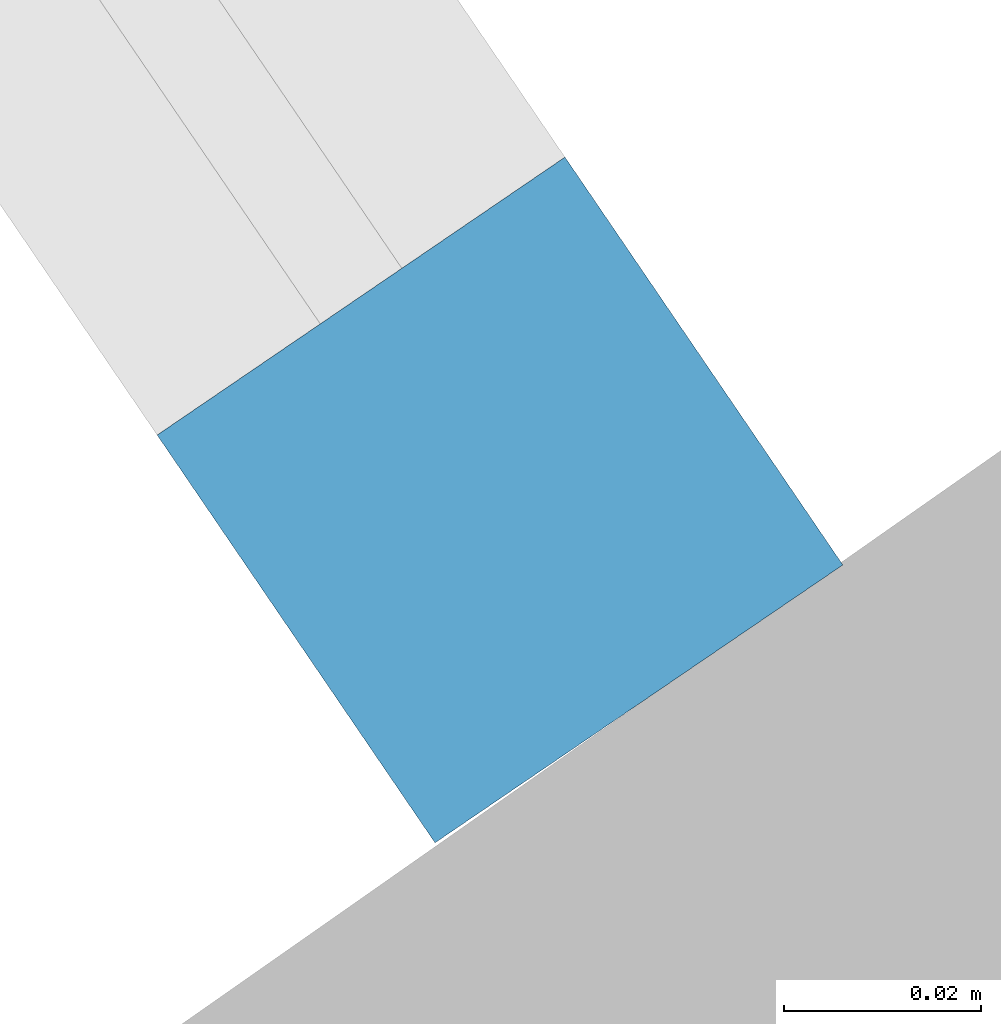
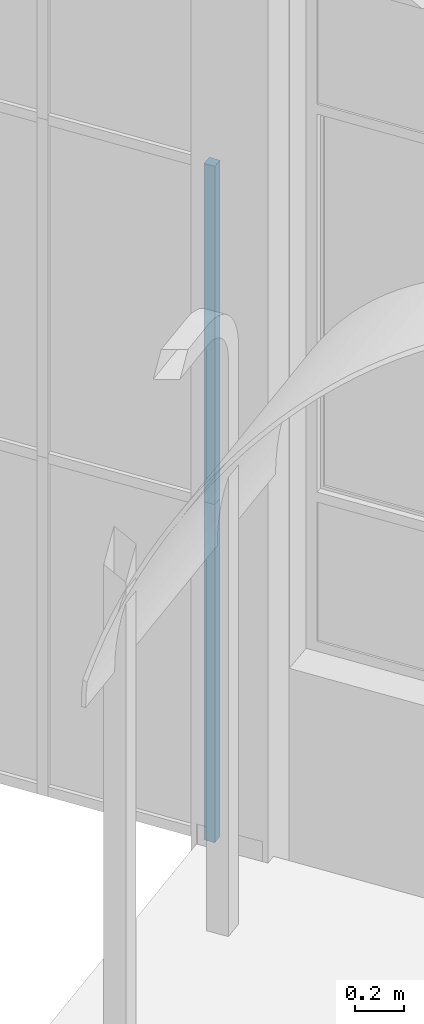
# One storey, part 21 of 157: 2 members, 1 element without a shape of its own.
"""IFC2X3 building model written with IfcOpenShell, lengths in millimetres."""

from ifc_helpers import new_model, entity, si_unit, converted_unit, derived_unit, direction, frame, origin, origin_2d_with_axis, place, context, subcontext, project, spatial, rectangle, extrude, source, transform, mapped, material, type_object, type_shapes, element, aggregate, save


model = new_model("IFC2X3")

# Units and contexts
model_context = context("Model", 3, precision=0.01, world=origin(), true_north=direction((6.123031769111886e-17, 1.0)))
body_context = subcontext(model_context, "Body", "Model", "MODEL_VIEW")
ifc_project = project(units=[si_unit("LENGTHUNIT", "METRE", prefix="MILLI"), si_unit("AREAUNIT", "SQUARE_METRE"), si_unit("VOLUMEUNIT", "CUBIC_METRE"), converted_unit("PLANEANGLEUNIT", "DEGREE", entity("IfcRatioMeasure", 0.017453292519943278), si_unit("PLANEANGLEUNIT", "RADIAN"), dimensions=[0, 0, 0, 0, 0, 0, 0]), si_unit("MASSUNIT", "GRAM", prefix="KILO"), derived_unit("MASSDENSITYUNIT", [(si_unit("MASSUNIT", "GRAM", prefix="KILO"), 1), (si_unit("LENGTHUNIT", "METRE"), -3)]), derived_unit("MOMENTOFINERTIAUNIT", [(si_unit("LENGTHUNIT", "METRE"), 4)]), si_unit("TIMEUNIT", "SECOND"), si_unit("FREQUENCYUNIT", "HERTZ"), si_unit("THERMODYNAMICTEMPERATUREUNIT", "DEGREE_CELSIUS"), derived_unit("THERMALTRANSMITTANCEUNIT", [(si_unit("MASSUNIT", "GRAM", prefix="KILO"), 1), (si_unit("THERMODYNAMICTEMPERATUREUNIT", "KELVIN"), -1), (si_unit("TIMEUNIT", "SECOND"), -3)]), derived_unit("THERMALCONDUCTANCEUNIT", [(si_unit("MASSUNIT", "GRAM", prefix="KILO"), 1), (si_unit("LENGTHUNIT", "METRE"), 1), (si_unit("THERMODYNAMICTEMPERATUREUNIT", "KELVIN"), -1), (si_unit("TIMEUNIT", "SECOND"), -3)]), derived_unit("VOLUMETRICFLOWRATEUNIT", [(si_unit("LENGTHUNIT", "METRE"), 3), (si_unit("TIMEUNIT", "SECOND"), -1)]), derived_unit("MASSFLOWRATEUNIT", [(si_unit("MASSUNIT", "GRAM", prefix="KILO"), 1), (si_unit("TIMEUNIT", "SECOND"), -1)]), derived_unit("ROTATIONALFREQUENCYUNIT", [(si_unit("TIMEUNIT", "SECOND"), -1)]), si_unit("ELECTRICCURRENTUNIT", "AMPERE"), si_unit("ELECTRICVOLTAGEUNIT", "VOLT"), si_unit("POWERUNIT", "WATT"), converted_unit("FORCEUNIT", "KIP", entity("IfcRatioMeasure", 2.088543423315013e-05), si_unit("FORCEUNIT", "NEWTON"), dimensions=[1, 1, -2, 0, 0, 0, 0]), si_unit("ILLUMINANCEUNIT", "LUX"), si_unit("LUMINOUSFLUXUNIT", "LUMEN"), si_unit("LUMINOUSINTENSITYUNIT", "CANDELA"), derived_unit("USERDEFINED", [(si_unit("MASSUNIT", "GRAM", prefix="KILO"), -1), (si_unit("LENGTHUNIT", "METRE"), -2), (si_unit("TIMEUNIT", "SECOND"), 3), (si_unit("LUMINOUSFLUXUNIT", "LUMEN"), 1)]), derived_unit("USERDEFINED", [(si_unit("MASSUNIT", "GRAM", prefix="KILO"), 1), (si_unit("LENGTHUNIT", "METRE"), 3), (si_unit("TIMEUNIT", "SECOND"), -3), (si_unit("ELECTRICCURRENTUNIT", "AMPERE"), -2)]), derived_unit("USERDEFINED", [(si_unit("LENGTHUNIT", "METRE"), 2), (si_unit("TIMEUNIT", "SECOND"), -2)]), derived_unit("SOUNDPOWERUNIT", [(si_unit("MASSUNIT", "GRAM", prefix="KILO"), 1), (si_unit("LENGTHUNIT", "METRE"), 2), (si_unit("TIMEUNIT", "SECOND"), -3)]), derived_unit("SOUNDPRESSUREUNIT", [(si_unit("MASSUNIT", "GRAM", prefix="KILO"), 1), (si_unit("LENGTHUNIT", "METRE"), -1), (si_unit("TIMEUNIT", "SECOND"), -2)]), derived_unit("LINEARVELOCITYUNIT", [(si_unit("LENGTHUNIT", "METRE"), 1), (si_unit("TIMEUNIT", "SECOND"), -1)]), si_unit("PRESSUREUNIT", "PASCAL"), derived_unit("USERDEFINED", [(si_unit("LENGTHUNIT", "METRE"), -2), (si_unit("MASSUNIT", "GRAM", prefix="KILO"), 1), (si_unit("TIMEUNIT", "SECOND"), -2)]), derived_unit("LINEARFORCEUNIT", [(si_unit("MASSUNIT", "GRAM", prefix="KILO"), 1), (si_unit("LENGTHUNIT", "METRE"), 1), (si_unit("TIMEUNIT", "SECOND"), -2), (si_unit("LENGTHUNIT", "METRE"), -1)]), derived_unit("PLANARFORCEUNIT", [(si_unit("MASSUNIT", "GRAM", prefix="KILO"), 1), (si_unit("LENGTHUNIT", "METRE"), 1), (si_unit("TIMEUNIT", "SECOND"), -2), (si_unit("LENGTHUNIT", "METRE"), -2)]), derived_unit("SPECIFICHEATCAPACITYUNIT", [(si_unit("LENGTHUNIT", "METRE"), 2), (si_unit("TIMEUNIT", "SECOND"), -2), (si_unit("THERMODYNAMICTEMPERATUREUNIT", "KELVIN"), -1)]), derived_unit("VAPORPERMEABILITYUNIT", [(si_unit("TIMEUNIT", "SECOND"), 1), (si_unit("LENGTHUNIT", "METRE"), -1)]), derived_unit("DYNAMICVISCOSITYUNIT", [(si_unit("MASSUNIT", "GRAM", prefix="KILO"), 1), (si_unit("LENGTHUNIT", "METRE"), -1), (si_unit("TIMEUNIT", "SECOND"), -1)]), derived_unit("THERMALEXPANSIONCOEFFICIENTUNIT", [(si_unit("THERMODYNAMICTEMPERATUREUNIT", "KELVIN"), -1)])], contexts=[model_context])

# Site, building, storey
site_placement = place(None, frame((0.0, 0.0, 0.0), z_axis=(0.0, 0.0, 1.0), x_axis=(0.8191520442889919, 0.5735764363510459, 0.0)))
site = spatial("IfcSite", under=ifc_project, at=site_placement, Name="Default", CompositionType="ELEMENT")
building_placement = place(site_placement, origin())
building = spatial("IfcBuilding", under=site, at=building_placement, CompositionType="ELEMENT")
storey_placement = place(building_placement, origin())
storey = spatial("IfcBuildingStorey", under=building, at=storey_placement, Name="1.EG +0.00", CompositionType="ELEMENT", Elevation=-4.331468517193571e-12)

# Curtain wall, members
curtain_wall_type = type_object("IfcCurtainWallType", Name="Curtain Wall:Curtain_Wall_CJC", PredefinedType="NOTDEFINED")
curtain_wall_placement = place(storey_placement, origin())
curtain_wall = element("IfcCurtainWall", 1, at=curtain_wall_placement, inside=storey, type_object=curtain_wall_type, Name="Curtain Wall:Curtain_Wall_CJC", ObjectType="Curtain Wall:Curtain_Wall_CJC")
ifc_material = material(Name="Aluminium")
member_type_1 = type_object("IfcMemberType", Name="Rectangular Mullion:5x5", PredefinedType="MULLION", material=ifc_material)
shared_shape_1 = source(origin(), body_context, "Body", "SweptSolid", [
    extrude(rectangle(XDim=50.0, YDim=50.0, at=origin_2d_with_axis()), frame((-25.0, 0.0, -1700.0), z_axis=(0.0, 0.0, 1.0), x_axis=(0.0, -1.0, 0.0)), (0.0, 0.0, 1.0), 1700.0000000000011),
])
type_shapes(member_type_1, [shared_shape_1])
member_1_placement = place(curtain_wall_placement, frame((-223122.44808046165, 109871.35891435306, 3400.0), z_axis=(0.0, 0.0, 1.0), x_axis=(-0.01272958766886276, -0.999918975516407, 0.0)))
member_1 = element("IfcMember", 2, at=member_1_placement, type_object=member_type_1, material=ifc_material, Name="Rectangular Mullion:5x5", ObjectType="Rectangular Mullion:5x5", context=body_context, shape_type="MappedRepresentation", body=[
    mapped(shared_shape_1, transform((0.0, 0.0, 0.0), scale=1.0)),
])
member_type_2 = type_object("IfcMemberType", Name="Rectangular Mullion:5x5", PredefinedType="MULLION", material=ifc_material)
shared_shape_2 = source(origin(), body_context, "Body", "SweptSolid", [
    extrude(rectangle(XDim=50.0, YDim=50.0, at=origin_2d_with_axis()), frame((-25.0, 0.0, -1700.0), z_axis=(0.0, 0.0, 1.0), x_axis=(0.0, -1.0, 0.0)), (0.0, 0.0, 1.0), 1699.9999999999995),
])
type_shapes(member_type_2, [shared_shape_2])
member_2_placement = place(curtain_wall_placement, frame((-223122.44808046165, 109871.35891435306, 1700.0), z_axis=(0.0, 0.0, 1.0), x_axis=(-0.01272958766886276, -0.999918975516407, 0.0)))
member_2 = element("IfcMember", 3, at=member_2_placement, type_object=member_type_2, material=ifc_material, Name="Rectangular Mullion:5x5", ObjectType="Rectangular Mullion:5x5", context=body_context, shape_type="MappedRepresentation", body=[
    mapped(shared_shape_2, transform((0.0, 0.0, 0.0), scale=1.0)),
])
aggregate(curtain_wall, [member_1, member_2])

save(model, "model.ifc")
